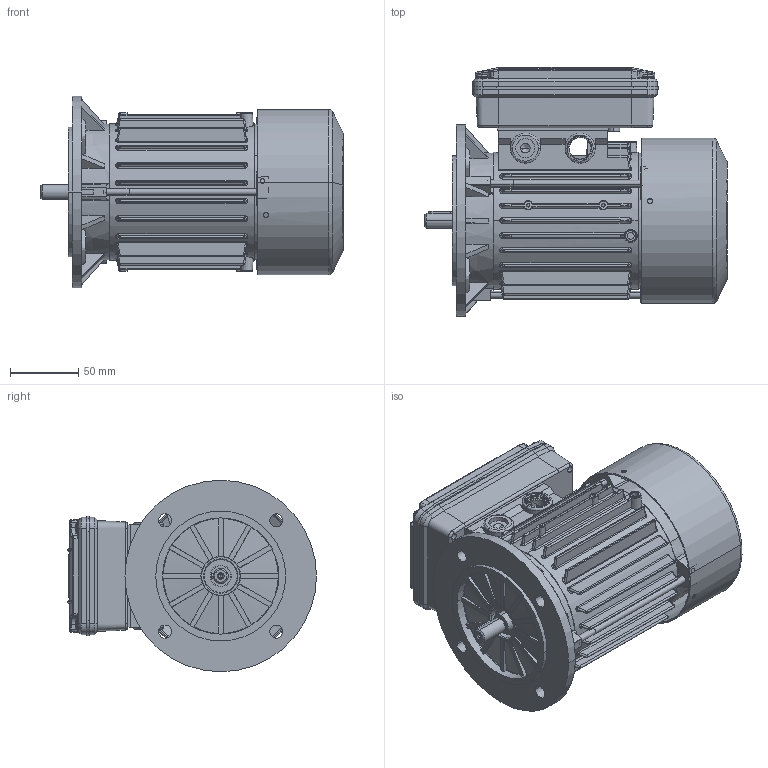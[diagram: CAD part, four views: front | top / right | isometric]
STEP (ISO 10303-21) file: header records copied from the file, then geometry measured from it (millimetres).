
FILE_DESCRIPTION (( 'STEP AP214' ), '1' );
FILE_NAME ('M24BB0011.STEP', '2018-10-25T12:33:57', ( '' ), ( '' ), 'SwSTEP 2.0', 'SolidWorks 2018', '' );
FILE_SCHEMA (( 'AUTOMOTIVE_DESIGN' ));
Length unit declared in the file: millimetre
Products named in the file (14): Vite per coperchio morsettiera; Coperchio per Scatola per Morsettiera Doppia 63-71-80; Scatola per Morsettiera Doppia 63-71-80; Chiavetta 63; Cuffia SM 63 - DAA40098; Tirante BA SM 63; Scudo Lato Comando B3 BM 63 - DAAD0194; Scudo a flangia B5 Fi 140 BM 63 - DAAA0094; Albero SM 63 - DAD10095; Carcassa 63 B5; M24BB0011; Scatola per Morsettiera Doppia 63-71-80 - Completa; Guarnizione Scatola Singola 63-71-80; Guarnizione Doppia Scatola gr. 63-71-80 - DBAM0094
Assembly tree (18 placements, depth 3):
  M24BB0011
    Carcassa 63 B5
    Albero SM 63 - DAD10095
    Scudo a flangia B5 Fi 140 BM 63 - DAAA0094
    Scudo Lato Comando B3 BM 63 - DAAD0194
    Tirante BA SM 63  x3
    Cuffia SM 63 - DAA40098
    Chiavetta 63
    Scatola per Morsettiera Doppia 63-71-80 - Completa
      Scatola per Morsettiera Doppia 63-71-80
      Coperchio per Scatola per Morsettiera Doppia 63-71-80
      Vite per coperchio morsettiera  x4
      Guarnizione Doppia Scatola gr. 63-71-80 - DBAM0094
      Guarnizione Scatola Singola 63-71-80
Bounding box: 221 x 182 x 140 mm (x, y, z)
Volume: 586794.3 mm3; surface area: 382823.3 mm2
Topology: 26 solids, 26 shells, 3232 faces, 8715 edges, 5495 vertices
Faces by surface type: plane 1162, cylinder 997, bspline 357, torus 335, cone 275, sphere 106
Entity records: 116086 total; most frequent: CARTESIAN_POINT 43443, ORIENTED_EDGE 16134, DIRECTION 13701, EDGE_CURVE 8067, AXIS2_PLACEMENT_3D 5255, VERTEX_POINT 5163, EDGE_LOOP 3294, VECTOR 3191
